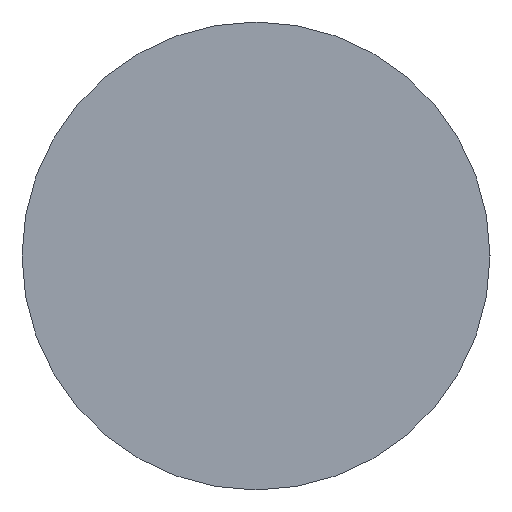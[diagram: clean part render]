
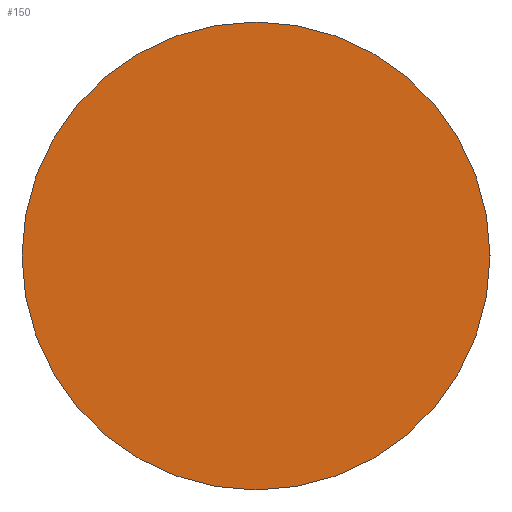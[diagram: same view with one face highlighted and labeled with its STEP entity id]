
A CAD part, left-side view. The second image highlights one B-rep face of the part: STEP entity #150.
In plain terms, the highlighted planar face has unit normal (-1, 0, 0).
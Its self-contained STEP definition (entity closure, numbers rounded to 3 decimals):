
#2 = DIRECTION ( 'NONE',  ( 1., 0., 0. ) ) ;
#10 = ORIENTED_EDGE ( 'NONE', *, *, #35, .F. ) ;
#21 = CARTESIAN_POINT ( 'NONE',  ( 0., -9., 0. ) ) ;
#30 = CARTESIAN_POINT ( 'NONE',  ( 0., 9., 0. ) ) ;
#35 = EDGE_CURVE ( 'NONE', #162, #142, #242, .T. ) ;
#43 = AXIS2_PLACEMENT_3D ( 'NONE', #232, #2, #197 ) ;
#50 = FACE_OUTER_BOUND ( 'NONE', #75, .T. ) ;
#51 = DIRECTION ( 'NONE',  ( -1., 0., 0. ) ) ;
#71 = CARTESIAN_POINT ( 'NONE',  ( 0., 0., 0. ) ) ;
#75 = EDGE_LOOP ( 'NONE', ( #10, #93 ) ) ;
#93 = ORIENTED_EDGE ( 'NONE', *, *, #253, .F. ) ;
#142 = VERTEX_POINT ( 'NONE', #21 ) ;
#150 = ADVANCED_FACE ( 'NONE', ( #50 ), #225, .T. ) ;
#158 = DIRECTION ( 'NONE',  ( 1., 0., 0. ) ) ;
#160 = CARTESIAN_POINT ( 'NONE',  ( 0., 0., 0. ) ) ;
#162 = VERTEX_POINT ( 'NONE', #30 ) ;
#179 = DIRECTION ( 'NONE',  ( 0., -1., 0. ) ) ;
#197 = DIRECTION ( 'NONE',  ( 0., 1., 0. ) ) ;
#199 = AXIS2_PLACEMENT_3D ( 'NONE', #160, #51, #179 ) ;
#225 = PLANE ( 'NONE',  #199 ) ;
#232 = CARTESIAN_POINT ( 'NONE',  ( 0., 0., 0. ) ) ;
#236 = CIRCLE ( 'NONE', #271, 9. ) ;
#237 = DIRECTION ( 'NONE',  ( 0., 1., 0. ) ) ;
#242 = CIRCLE ( 'NONE', #43, 9. ) ;
#253 = EDGE_CURVE ( 'NONE', #142, #162, #236, .T. ) ;
#271 = AXIS2_PLACEMENT_3D ( 'NONE', #71, #158, #237 ) ;
